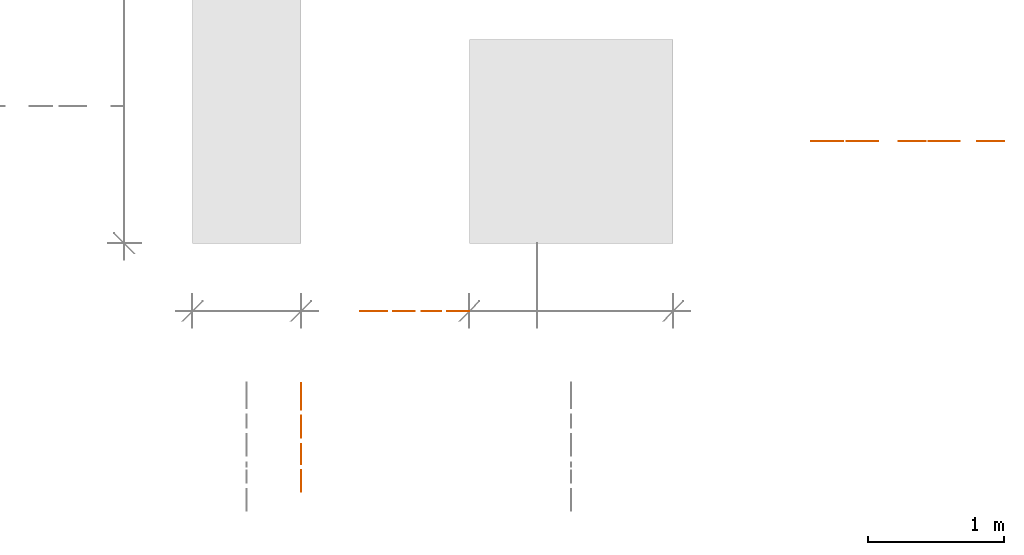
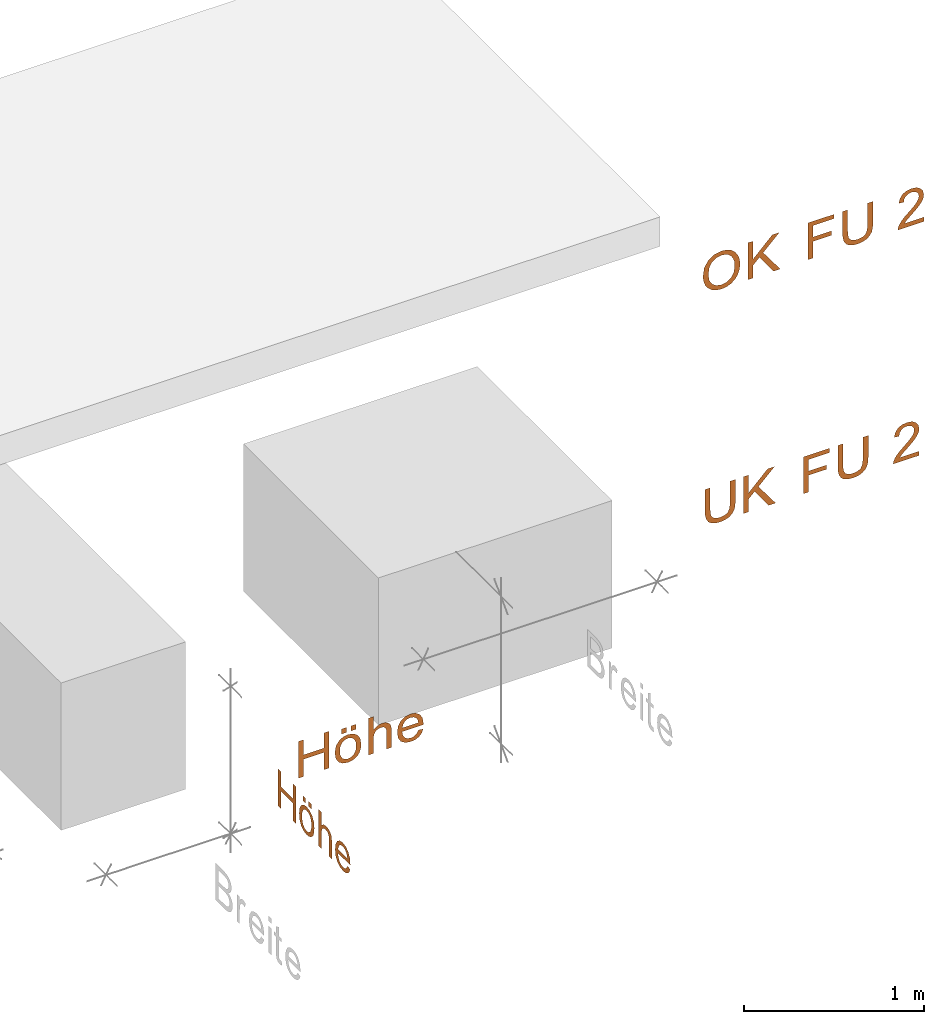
# One storey, part 3 of 3: 4 proxies, 4 elements without a shape of their own.
"""IFC4 building model written with IfcOpenShell, lengths in metres."""

from ifc_helpers import new_model, entity, si_unit, converted_unit, derived_unit, frame, origin, origin_with_axes, place, context, subcontext, project, spatial, open_shell, surface_model, source, transform, mapped, element, aggregate, save


model = new_model("IFC4")

# Units and contexts
model_context = context("Model", 3, precision=1e-05, world=origin())
body_context = subcontext(model_context, "Body", "Model", "MODEL_VIEW")
ifc_project = project(units=[si_unit("LENGTHUNIT", "METRE"), si_unit("AREAUNIT", "SQUARE_METRE"), si_unit("VOLUMEUNIT", "CUBIC_METRE"), si_unit("MASSUNIT", "GRAM", prefix="KILO"), converted_unit("PLANEANGLEUNIT", "DEGREE", entity("IfcPlaneAngleMeasure", 0.0174532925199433), si_unit("PLANEANGLEUNIT", "RADIAN"), dimensions=[0, 0, 0, 0, 0, 0, 0]), derived_unit("THERMALTRANSMITTANCEUNIT", [(si_unit("POWERUNIT", "WATT"), 1), (si_unit("THERMODYNAMICTEMPERATUREUNIT", "KELVIN"), -1), (si_unit("LENGTHUNIT", "METRE"), -2)]), derived_unit("VOLUMETRICFLOWRATEUNIT", [(si_unit("LENGTHUNIT", "METRE"), 3), (converted_unit("TIMEUNIT", "hour", entity("IfcTimeMeasure", 3600.0), si_unit("TIMEUNIT", "SECOND"), dimensions=[0, 0, 1, 0, 0, 0, 0]), -1), (si_unit("LENGTHUNIT", "METRE"), -1)])], contexts=[model_context])

# Site, building, storey
site_placement = place(None, origin())
site = spatial("IfcSite", under=ifc_project, at=site_placement, Name="Liegenschaft", CompositionType="ELEMENT")
building_placement = place(site_placement, origin())
building = spatial("IfcBuilding", under=site, at=building_placement, Name="Gebäude", CompositionType="ELEMENT")
storey_placement = place(building_placement, origin())
storey = spatial("IfcBuildingStorey", under=building, at=storey_placement, Name="Geschoss 01", CompositionType="ELEMENT", Elevation=0.0)

# Assembly, proxy
assembly_1_placement = place(storey_placement, origin())
assembly_1 = element("IfcElementAssembly", 1, at=assembly_1_placement, inside=storey, Name="SpatialDim_Group", PredefinedType="NOTDEFINED")
shared_shape_1 = source(origin_with_axes(), body_context, "Body", "SurfaceModel", [
    surface_model("IfcShellBasedSurfaceModel", [(0.00999999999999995, 0.801, 0.0), (0.00999999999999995, 0.768, 0.0), (0.128, 0.768, 0.0), (0.128, 0.638, 0.0), (0.00999999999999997, 0.638, 0.0), (0.00999999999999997, 0.605, 0.0), (0.26, 0.605, 0.0), (0.26, 0.638, 0.0), (0.157, 0.638, 0.0), (0.157, 0.768, 0.0), (0.26, 0.768, 0.0), (0.26, 0.801, 0.0)], [open_shell([[[0, 1, 2, 3, 4, 5, 6, 7, 8, 9, 10, 11]]], orient=[[False]])]),
    surface_model("IfcShellBasedSurfaceModel", [(0.213, 0.465, 0.0), (0.213, 0.433, 0.0), (0.247, 0.433, 0.0), (0.247, 0.465, 0.0), (0.213, 0.527, 0.0), (0.213, 0.495, 0.0), (0.247, 0.495, 0.0), (0.247, 0.527, 0.0), (0.059875, 0.562125, 0.0), (0.03, 0.545, 0.0), (0.012, 0.517875, 0.0), (0.00599999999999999, 0.484, 0.0), (0.00887499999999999, 0.461, 0.0), (0.017, 0.441, 0.0), (0.030625, 0.422875, 0.0), (0.048, 0.41, 0.0), (0.072125, 0.402375, 0.0), (0.103, 0.4, 0.0), (0.141875, 0.405875, 0.0), (0.171, 0.423, 0.0), (0.189, 0.4505, 0.0), (0.195, 0.484, 0.0), (0.189875, 0.514625, 0.0), (0.175, 0.54, 0.0), (0.144375, 0.561125, 0.0), (0.101, 0.568, 0.0), (0.070375, 0.53325, 0.0), (0.101, 0.537, 0.0), (0.131125, 0.53325, 0.0), (0.153, 0.522, 0.0), (0.166, 0.504875, 0.0), (0.17, 0.484, 0.0), (0.165625, 0.46275, 0.0), (0.153, 0.446, 0.0), (0.13125, 0.43475, 0.0), (0.102, 0.431, 0.0), (0.0705, 0.43475, 0.0), (0.048, 0.446, 0.0), (0.035, 0.463125, 0.0), (0.031, 0.484, 0.0), (0.035375, 0.50525, 0.0), (0.048, 0.522, 0.0)], [open_shell([[[0, 1, 2, 3]], [[4, 5, 6, 7]], [[8, 9, 10, 11, 12, 13, 14, 15, 16, 17, 18, 19, 20, 21, 22, 23, 24, 25], [26, 27, 28, 29, 30, 31, 32, 33, 34, 35, 36, 37, 38, 39, 40, 41]]], orient=[[False], [False], [False, False]])]),
    surface_model("IfcShellBasedSurfaceModel", [(0.01, 0.351, 0.0), (0.01, 0.32, 0.0), (0.109, 0.32, 0.0), (0.128625, 0.318625, 0.0), (0.143, 0.315, 0.0), (0.154, 0.308, 0.0), (0.162, 0.298, 0.0), (0.167375, 0.285875, 0.0), (0.169, 0.273, 0.0), (0.16625, 0.25725, 0.0), (0.159, 0.246, 0.0), (0.144625, 0.238375, 0.0), (0.125, 0.236, 0.0), (0.01, 0.236, 0.0), (0.01, 0.205, 0.0), (0.125, 0.205, 0.0), (0.148375, 0.2065, 0.0), (0.165, 0.211, 0.0), (0.177875, 0.22, 0.0), (0.187, 0.232, 0.0), (0.19325, 0.248375, 0.0), (0.195, 0.267, 0.0), (0.189, 0.2965, 0.0), (0.171, 0.32, 0.0), (0.26, 0.32, 0.0), (0.26, 0.351, 0.0)], [open_shell([[[0, 1, 2, 3, 4, 5, 6, 7, 8, 9, 10, 11, 12, 13, 14, 15, 16, 17, 18, 19, 20, 21, 22, 23, 24, 25]]], orient=[[False]])]),
    surface_model("IfcShellBasedSurfaceModel", [(0.068, 0.0320000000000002, 0.0), (0.051375, 0.0408750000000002, 0.0), (0.04, 0.0520000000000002, 0.0), (0.03325, 0.0653750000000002, 0.0), (0.031, 0.0810000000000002, 0.0), (0.03525, 0.10275, 0.0), (0.047, 0.12, 0.0), (0.066625, 0.131875, 0.0), (0.093, 0.137, 0.0), (0.093, 0.0, 0.0), (0.09775, 0.0, 0.0), (0.101, 0.0, 0.0), (0.14075, 0.00587500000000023, 0.0), (0.17, 0.0230000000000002, 0.0), (0.188875, 0.0500000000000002, 0.0), (0.195, 0.0830000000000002, 0.0), (0.1885, 0.117625, 0.0), (0.17, 0.144, 0.0), (0.139375, 0.162, 0.0), (0.099, 0.168, 0.0), (0.05925, 0.162125, 0.0), (0.03, 0.145, 0.0), (0.012, 0.11675, 0.0), (0.00600000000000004, 0.0810000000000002, 0.0), (0.00975000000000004, 0.0516250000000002, 0.0), (0.021, 0.0290000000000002, 0.0), (0.0395, 0.0116250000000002, 0.0), (0.064, 0.00100000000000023, 0.0), (0.137625, 0.0357500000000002, 0.0), (0.118, 0.0320000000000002, 0.0), (0.118, 0.136, 0.0), (0.139625, 0.130625, 0.0), (0.156, 0.12, 0.0), (0.16675, 0.103, 0.0), (0.17, 0.0830000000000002, 0.0), (0.1655, 0.0612500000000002, 0.0), (0.152, 0.0440000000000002, 0.0)], [open_shell([[[0, 1, 2, 3, 4, 5, 6, 7, 8, 9, 10, 11, 12, 13, 14, 15, 16, 17, 18, 19, 20, 21, 22, 23, 24, 25, 26, 27], [28, 29, 30, 31, 32, 33, 34, 35, 36]]], orient=[[False, False]])]),
])
proxy_1_placement = place(assembly_1_placement, frame((19.5840061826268, -4.61226913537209, 0.5), z_axis=(-1.0, 0.0, 1.22464679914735e-16), x_axis=(1.22464679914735e-16, 0.0, 1.0)))
proxy_1 = element("IfcBuildingElementProxy", 2, at=proxy_1_placement, Name="macro", context=body_context, shape_type="MappedRepresentation", body=[
    mapped(shared_shape_1, transform((0.0, 0.0, 0.0), x_axis=(1.0, 0.0, 0.0), y_axis=(0.0, 1.0, 0.0), z_axis=(0.0, 0.0, 1.0), scale=1.0)),
])
aggregate(assembly_1, [proxy_1])

assembly_2_placement = place(storey_placement, origin())
assembly_2 = element("IfcElementAssembly", 3, at=assembly_2_placement, inside=storey, Name="SpatialDim_Group", PredefinedType="NOTDEFINED")
shared_shape_2 = source(origin_with_axes(), body_context, "Body", "SurfaceModel", [
    surface_model("IfcShellBasedSurfaceModel", [(0.00999999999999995, 1.301, 0.0), (0.00999999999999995, 1.268, 0.0), (0.128, 1.268, 0.0), (0.128, 1.138, 0.0), (0.00999999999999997, 1.138, 0.0), (0.00999999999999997, 1.105, 0.0), (0.26, 1.105, 0.0), (0.26, 1.138, 0.0), (0.157, 1.138, 0.0), (0.157, 1.268, 0.0), (0.26, 1.268, 0.0), (0.26, 1.301, 0.0)], [open_shell([[[0, 1, 2, 3, 4, 5, 6, 7, 8, 9, 10, 11]]], orient=[[False]])]),
    surface_model("IfcShellBasedSurfaceModel", [(0.213, 0.964999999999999, 0.0), (0.213, 0.932999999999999, 0.0), (0.247, 0.932999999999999, 0.0), (0.247, 0.964999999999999, 0.0), (0.213, 1.027, 0.0), (0.213, 0.994999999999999, 0.0), (0.247, 0.994999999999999, 0.0), (0.247, 1.027, 0.0), (0.059875, 1.062125, 0.0), (0.03, 1.045, 0.0), (0.012, 1.017875, 0.0), (0.00599999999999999, 0.983999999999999, 0.0), (0.00887499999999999, 0.960999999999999, 0.0), (0.017, 0.940999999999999, 0.0), (0.030625, 0.922874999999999, 0.0), (0.048, 0.909999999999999, 0.0), (0.072125, 0.902374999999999, 0.0), (0.103, 0.899999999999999, 0.0), (0.141875, 0.905874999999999, 0.0), (0.171, 0.922999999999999, 0.0), (0.189, 0.950499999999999, 0.0), (0.195, 0.983999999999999, 0.0), (0.189875, 1.014625, 0.0), (0.175, 1.04, 0.0), (0.144375, 1.061125, 0.0), (0.101, 1.068, 0.0), (0.070375, 1.03325, 0.0), (0.101, 1.037, 0.0), (0.131125, 1.03325, 0.0), (0.153, 1.022, 0.0), (0.166, 1.004875, 0.0), (0.17, 0.983999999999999, 0.0), (0.165625, 0.962749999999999, 0.0), (0.153, 0.945999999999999, 0.0), (0.13125, 0.934749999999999, 0.0), (0.102, 0.930999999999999, 0.0), (0.0705, 0.934749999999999, 0.0), (0.048, 0.945999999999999, 0.0), (0.035, 0.963124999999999, 0.0), (0.031, 0.983999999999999, 0.0), (0.035375, 1.00525, 0.0), (0.048, 1.022, 0.0)], [open_shell([[[0, 1, 2, 3]], [[4, 5, 6, 7]], [[8, 9, 10, 11, 12, 13, 14, 15, 16, 17, 18, 19, 20, 21, 22, 23, 24, 25], [26, 27, 28, 29, 30, 31, 32, 33, 34, 35, 36, 37, 38, 39, 40, 41]]], orient=[[False], [False], [False, False]])]),
    surface_model("IfcShellBasedSurfaceModel", [(0.01, 0.850999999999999, 0.0), (0.01, 0.819999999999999, 0.0), (0.109, 0.819999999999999, 0.0), (0.128625, 0.818624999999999, 0.0), (0.143, 0.815, 0.0), (0.154, 0.807999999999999, 0.0), (0.162, 0.797999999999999, 0.0), (0.167375, 0.785874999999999, 0.0), (0.169, 0.772999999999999, 0.0), (0.16625, 0.757249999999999, 0.0), (0.159, 0.745999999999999, 0.0), (0.144625, 0.738374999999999, 0.0), (0.125, 0.735999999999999, 0.0), (0.01, 0.735999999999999, 0.0), (0.01, 0.704999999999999, 0.0), (0.125, 0.704999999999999, 0.0), (0.148375, 0.706499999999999, 0.0), (0.165, 0.710999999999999, 0.0), (0.177875, 0.719999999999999, 0.0), (0.187, 0.731999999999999, 0.0), (0.19325, 0.748374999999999, 0.0), (0.195, 0.766999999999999, 0.0), (0.189, 0.796499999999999, 0.0), (0.171, 0.819999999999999, 0.0), (0.26, 0.819999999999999, 0.0), (0.26, 0.850999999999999, 0.0)], [open_shell([[[0, 1, 2, 3, 4, 5, 6, 7, 8, 9, 10, 11, 12, 13, 14, 15, 16, 17, 18, 19, 20, 21, 22, 23, 24, 25]]], orient=[[False]])]),
    surface_model("IfcShellBasedSurfaceModel", [(0.068, 0.531999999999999, 0.0), (0.051375, 0.540874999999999, 0.0), (0.04, 0.551999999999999, 0.0), (0.03325, 0.565374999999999, 0.0), (0.031, 0.580999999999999, 0.0), (0.03525, 0.602749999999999, 0.0), (0.047, 0.619999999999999, 0.0), (0.066625, 0.631874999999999, 0.0), (0.093, 0.636999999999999, 0.0), (0.093, 0.499999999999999, 0.0), (0.09775, 0.499999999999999, 0.0), (0.101, 0.499999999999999, 0.0), (0.14075, 0.505874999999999, 0.0), (0.17, 0.522999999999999, 0.0), (0.188875, 0.549999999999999, 0.0), (0.195, 0.582999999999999, 0.0), (0.1885, 0.617624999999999, 0.0), (0.17, 0.643999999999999, 0.0), (0.139375, 0.661999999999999, 0.0), (0.099, 0.667999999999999, 0.0), (0.05925, 0.662124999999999, 0.0), (0.03, 0.644999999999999, 0.0), (0.012, 0.616749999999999, 0.0), (0.00600000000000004, 0.580999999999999, 0.0), (0.00975000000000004, 0.551624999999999, 0.0), (0.021, 0.528999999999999, 0.0), (0.0395, 0.511624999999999, 0.0), (0.064, 0.500999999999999, 0.0), (0.137625, 0.535749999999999, 0.0), (0.118, 0.531999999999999, 0.0), (0.118, 0.635999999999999, 0.0), (0.139625, 0.630624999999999, 0.0), (0.156, 0.619999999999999, 0.0), (0.16675, 0.602999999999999, 0.0), (0.17, 0.582999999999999, 0.0), (0.1655, 0.561249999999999, 0.0), (0.152, 0.543999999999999, 0.0)], [open_shell([[[0, 1, 2, 3, 4, 5, 6, 7, 8, 9, 10, 11, 12, 13, 14, 15, 16, 17, 18, 19, 20, 21, 22, 23, 24, 25, 26, 27], [28, 29, 30, 31, 32, 33, 34, 35, 36]]], orient=[[False, False]])]),
])
proxy_2_placement = place(assembly_2_placement, frame((21.320715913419, -3.28326913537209, 0.215), z_axis=(-1.22464679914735e-16, -1.0, 1.49975978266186e-32), x_axis=(1.22464679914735e-16, 0.0, 1.0)))
proxy_2 = element("IfcBuildingElementProxy", 4, at=proxy_2_placement, Name="macro", context=body_context, shape_type="MappedRepresentation", body=[
    mapped(shared_shape_2, transform((0.0, 0.0, 0.0), x_axis=(1.0, 0.0, 0.0), y_axis=(0.0, 1.0, 0.0), z_axis=(0.0, 0.0, 1.0), scale=1.0)),
])
aggregate(assembly_2, [proxy_2])

assembly_3_placement = place(storey_placement, origin())
assembly_3 = element("IfcElementAssembly", 5, at=assembly_3_placement, inside=storey, Name="SpatialDim_Group", PredefinedType="NOTDEFINED")
shared_shape_3 = source(origin_with_axes(), body_context, "Body", "SurfaceModel", [
    surface_model("IfcShellBasedSurfaceModel", [(0.26, 1.213, 0.0), (0.117, 1.213, 0.0), (0.0771249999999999, 1.21675, 0.0), (0.0529999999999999, 1.228, 0.0), (0.0408749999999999, 1.24825, 0.0), (0.0369999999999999, 1.279, 0.0), (0.0391249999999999, 1.2985, 0.0), (0.0449999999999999, 1.315, 0.0), (0.0554999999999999, 1.32725, 0.0), (0.0689999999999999, 1.335, 0.0), (0.0884999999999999, 1.3395, 0.0), (0.117, 1.341, 0.0), (0.26, 1.341, 0.0), (0.26, 1.375, 0.0), (0.116, 1.375, 0.0), (0.0799999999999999, 1.37225, 0.0), (0.0529999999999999, 1.365, 0.0), (0.0324999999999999, 1.3525, 0.0), (0.0179999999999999, 1.334, 0.0), (0.00899999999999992, 1.307625, 0.0), (0.00599999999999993, 1.276, 0.0), (0.00962499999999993, 1.24325, 0.0), (0.0199999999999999, 1.218, 0.0), (0.0364999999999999, 1.199125, 0.0), (0.0559999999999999, 1.187, 0.0), (0.0822499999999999, 1.18075, 0.0), (0.116, 1.179, 0.0), (0.26, 1.179, 0.0)], [open_shell([[[0, 1, 2, 3, 4, 5, 6, 7, 8, 9, 10, 11, 12, 13, 14, 15, 16, 17, 18, 19, 20, 21, 22, 23, 24, 25, 26, 27]]], orient=[[False]])]),
    surface_model("IfcShellBasedSurfaceModel", [(0.00999999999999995, 1.128, 0.0), (0.00999999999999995, 1.095, 0.0), (0.0969999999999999, 1.095, 0.0), (0.136, 1.055, 0.0), (0.00999999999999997, 0.965, 0.0), (0.00999999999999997, 0.921, 0.0), (0.159, 1.031, 0.0), (0.26, 0.927, 0.0), (0.26, 0.972, 0.0), (0.138, 1.095, 0.0), (0.26, 1.095, 0.0), (0.26, 1.128, 0.0)], [open_shell([[[0, 1, 2, 3, 4, 5, 6, 7, 8, 9, 10, 11]]], orient=[[False]])]),
    surface_model("IfcShellBasedSurfaceModel", [(0.01, 0.743, 0.0), (0.01, 0.71, 0.0), (0.124, 0.71, 0.0), (0.124, 0.593, 0.0), (0.153, 0.593, 0.0), (0.153, 0.71, 0.0), (0.231, 0.71, 0.0), (0.231, 0.575, 0.0), (0.26, 0.575, 0.0), (0.26, 0.743, 0.0)], [open_shell([[[0, 1, 2, 3, 4, 5, 6, 7, 8, 9]]], orient=[[False]])]),
    surface_model("IfcShellBasedSurfaceModel", [(0.26, 0.36, 0.0), (0.117, 0.36, 0.0), (0.077125, 0.36375, 0.0), (0.053, 0.375, 0.0), (0.040875, 0.39525, 0.0), (0.037, 0.426, 0.0), (0.039125, 0.4455, 0.0), (0.045, 0.462, 0.0), (0.0555, 0.47425, 0.0), (0.069, 0.482, 0.0), (0.0885, 0.4865, 0.0), (0.117, 0.488, 0.0), (0.26, 0.488, 0.0), (0.26, 0.522, 0.0), (0.116, 0.522, 0.0), (0.08, 0.51925, 0.0), (0.053, 0.512, 0.0), (0.0325, 0.4995, 0.0), (0.018, 0.481, 0.0), (0.00900000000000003, 0.454625, 0.0), (0.00600000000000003, 0.423, 0.0), (0.00962500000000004, 0.39025, 0.0), (0.02, 0.365, 0.0), (0.0365, 0.346125, 0.0), (0.056, 0.334, 0.0), (0.08225, 0.32775, 0.0), (0.116, 0.326, 0.0), (0.26, 0.326, 0.0)], [open_shell([[[0, 1, 2, 3, 4, 5, 6, 7, 8, 9, 10, 11, 12, 13, 14, 15, 16, 17, 18, 19, 20, 21, 22, 23, 24, 25, 26, 27]]], orient=[[False]])]),
    surface_model("IfcShellBasedSurfaceModel", [(0.0390000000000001, 0.0, 0.0), (0.0390000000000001, 0.123, 0.0), (0.0475000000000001, 0.116875, 0.0), (0.0560000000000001, 0.11, 0.0), (0.0681250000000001, 0.0965, 0.0), (0.0870000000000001, 0.074, 0.0), (0.112375, 0.045625, 0.0), (0.131, 0.027, 0.0), (0.147625, 0.01425, 0.0), (0.162, 0.006, 0.0), (0.177, 0.0015, 0.0), (0.192, 0.0, 0.0), (0.219125, 0.00525, 0.0), (0.241, 0.021, 0.0), (0.25625, 0.04575, 0.0), (0.261, 0.078, 0.0), (0.2565, 0.11025, 0.0), (0.243, 0.135, 0.0), (0.21975, 0.152375, 0.0), (0.189, 0.16, 0.0), (0.185, 0.129, 0.0), (0.2065, 0.125375, 0.0), (0.222, 0.115, 0.0), (0.23275, 0.09925, 0.0), (0.236, 0.079, 0.0), (0.2325, 0.059625, 0.0), (0.223, 0.044, 0.0), (0.2095, 0.034125, 0.0), (0.193, 0.031, 0.0), (0.174375, 0.03475, 0.0), (0.155, 0.046, 0.0), (0.131875, 0.067625, 0.0), (0.102, 0.102, 0.0), (0.0818750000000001, 0.125375, 0.0), (0.0640000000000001, 0.142, 0.0), (0.0475000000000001, 0.15425, 0.0), (0.0310000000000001, 0.162, 0.0), (0.0205000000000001, 0.165125, 0.0), (0.0100000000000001, 0.166, 0.0), (0.0100000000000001, 0.0, 0.0)], [open_shell([[[0, 1, 2, 3, 4, 5, 6, 7, 8, 9, 10, 11, 12, 13, 14, 15, 16, 17, 18, 19, 20, 21, 22, 23, 24, 25, 26, 27, 28, 29, 30, 31, 32, 33, 34, 35, 36, 37, 38, 39]]], orient=[[False]])]),
])
proxy_3_placement = place(assembly_3_placement, frame((24.723715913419, -2.03326913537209, 0.0), z_axis=(-1.22464679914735e-16, -1.0, 1.49975978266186e-32), x_axis=(1.22464679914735e-16, 0.0, 1.0)))
proxy_3 = element("IfcBuildingElementProxy", 6, at=proxy_3_placement, context=body_context, shape_type="MappedRepresentation", body=[
    mapped(shared_shape_3, transform((0.0, 0.0, 0.0), x_axis=(1.0, 0.0, 0.0), y_axis=(0.0, 1.0, 0.0), z_axis=(0.0, 0.0, 1.0), scale=1.0)),
])
aggregate(assembly_3, [proxy_3])

assembly_4_placement = place(storey_placement, origin())
assembly_4 = element("IfcElementAssembly", 7, at=assembly_4_placement, inside=storey, Name="SpatialDim_Group", PredefinedType="NOTDEFINED")
shared_shape_4 = source(origin_with_axes(), body_context, "Body", "SurfaceModel", [
    surface_model("IfcShellBasedSurfaceModel", [(0.677100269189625, 1.413375, 0.0), (0.646350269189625, 1.403, 0.0), (0.619975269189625, 1.385, 0.0), (0.600350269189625, 1.361, 0.0), (0.587350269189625, 1.331, 0.0), (0.583350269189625, 1.298, 0.0), (0.587100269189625, 1.2665, 0.0), (0.598350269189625, 1.238, 0.0), (0.617975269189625, 1.212625, 0.0), (0.644350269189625, 1.194, 0.0), (0.676475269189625, 1.18275, 0.0), (0.712350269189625, 1.179, 0.0), (0.747600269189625, 1.18275, 0.0), (0.778350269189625, 1.194, 0.0), (0.805225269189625, 1.212, 0.0), (0.825350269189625, 1.236, 0.0), (0.837475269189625, 1.265125, 0.0), (0.841350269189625, 1.298, 0.0), (0.832475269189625, 1.345875, 0.0), (0.806350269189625, 1.384, 0.0), (0.764225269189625, 1.40875, 0.0), (0.709350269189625, 1.417, 0.0), (0.669225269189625, 1.377, 0.0), (0.708350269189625, 1.383, 0.0), (0.756600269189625, 1.3765, 0.0), (0.788350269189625, 1.358, 0.0), (0.806350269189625, 1.33025, 0.0), (0.812350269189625, 1.298, 0.0), (0.809350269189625, 1.274, 0.0), (0.800350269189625, 1.253, 0.0), (0.784725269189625, 1.23575, 0.0), (0.765350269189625, 1.223, 0.0), (0.740350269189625, 1.215375, 0.0), (0.712350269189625, 1.213, 0.0), (0.669725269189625, 1.219, 0.0), (0.638350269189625, 1.237, 0.0), (0.618600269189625, 1.2645, 0.0), (0.612350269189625, 1.298, 0.0), (0.618975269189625, 1.331875, 0.0), (0.638350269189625, 1.359, 0.0)], [open_shell([[[0, 1, 2, 3, 4, 5, 6, 7, 8, 9, 10, 11, 12, 13, 14, 15, 16, 17, 18, 19, 20, 21], [22, 23, 24, 25, 26, 27, 28, 29, 30, 31, 32, 33, 34, 35, 36, 37, 38, 39]]], orient=[[False, False]])]),
    surface_model("IfcShellBasedSurfaceModel", [(0.587350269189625, 1.128, 0.0), (0.587350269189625, 1.095, 0.0), (0.674350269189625, 1.095, 0.0), (0.713350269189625, 1.055, 0.0), (0.587350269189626, 0.965, 0.0), (0.587350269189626, 0.921, 0.0), (0.736350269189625, 1.031, 0.0), (0.837350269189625, 0.927, 0.0), (0.837350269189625, 0.972, 0.0), (0.715350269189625, 1.095, 0.0), (0.837350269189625, 1.095, 0.0), (0.837350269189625, 1.128, 0.0)], [open_shell([[[0, 1, 2, 3, 4, 5, 6, 7, 8, 9, 10, 11]]], orient=[[False]])]),
    surface_model("IfcShellBasedSurfaceModel", [(0.587350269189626, 0.743, 0.0), (0.587350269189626, 0.71, 0.0), (0.701350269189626, 0.71, 0.0), (0.701350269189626, 0.593, 0.0), (0.730350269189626, 0.593, 0.0), (0.730350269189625, 0.71, 0.0), (0.808350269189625, 0.71, 0.0), (0.808350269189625, 0.575, 0.0), (0.837350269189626, 0.575, 0.0), (0.837350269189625, 0.743, 0.0)], [open_shell([[[0, 1, 2, 3, 4, 5, 6, 7, 8, 9]]], orient=[[False]])]),
    surface_model("IfcShellBasedSurfaceModel", [(0.837350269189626, 0.36, 0.0), (0.694350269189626, 0.36, 0.0), (0.654475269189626, 0.36375, 0.0), (0.630350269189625, 0.375, 0.0), (0.618225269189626, 0.39525, 0.0), (0.614350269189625, 0.426, 0.0), (0.616475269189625, 0.4455, 0.0), (0.622350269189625, 0.462, 0.0), (0.632850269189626, 0.47425, 0.0), (0.646350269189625, 0.482, 0.0), (0.665850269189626, 0.4865, 0.0), (0.694350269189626, 0.488, 0.0), (0.837350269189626, 0.488, 0.0), (0.837350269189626, 0.522, 0.0), (0.693350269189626, 0.522, 0.0), (0.657350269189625, 0.51925, 0.0), (0.630350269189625, 0.512, 0.0), (0.609850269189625, 0.4995, 0.0), (0.595350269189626, 0.481, 0.0), (0.586350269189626, 0.454625, 0.0), (0.583350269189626, 0.423, 0.0), (0.586975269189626, 0.39025, 0.0), (0.597350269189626, 0.365, 0.0), (0.613850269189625, 0.346125, 0.0), (0.633350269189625, 0.334, 0.0), (0.659600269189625, 0.32775, 0.0), (0.693350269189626, 0.326, 0.0), (0.837350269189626, 0.326, 0.0)], [open_shell([[[0, 1, 2, 3, 4, 5, 6, 7, 8, 9, 10, 11, 12, 13, 14, 15, 16, 17, 18, 19, 20, 21, 22, 23, 24, 25, 26, 27]]], orient=[[False]])]),
    surface_model("IfcShellBasedSurfaceModel", [(0.616350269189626, 0.0, 0.0), (0.616350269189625, 0.123, 0.0), (0.624850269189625, 0.116875, 0.0), (0.633350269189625, 0.11, 0.0), (0.645475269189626, 0.0965, 0.0), (0.664350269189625, 0.074, 0.0), (0.689725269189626, 0.045625, 0.0), (0.708350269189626, 0.027, 0.0), (0.724975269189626, 0.01425, 0.0), (0.739350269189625, 0.006, 0.0), (0.754350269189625, 0.0015, 0.0), (0.769350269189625, 0.0, 0.0), (0.796475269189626, 0.00525, 0.0), (0.818350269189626, 0.021, 0.0), (0.833600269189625, 0.04575, 0.0), (0.838350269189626, 0.078, 0.0), (0.833850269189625, 0.11025, 0.0), (0.820350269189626, 0.135, 0.0), (0.797100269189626, 0.152375, 0.0), (0.766350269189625, 0.16, 0.0), (0.762350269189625, 0.129, 0.0), (0.783850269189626, 0.125375, 0.0), (0.799350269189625, 0.115, 0.0), (0.810100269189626, 0.09925, 0.0), (0.813350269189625, 0.079, 0.0), (0.809850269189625, 0.059625, 0.0), (0.800350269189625, 0.044, 0.0), (0.786850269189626, 0.034125, 0.0), (0.770350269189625, 0.031, 0.0), (0.751725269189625, 0.03475, 0.0), (0.732350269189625, 0.046, 0.0), (0.709225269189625, 0.067625, 0.0), (0.679350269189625, 0.102, 0.0), (0.659225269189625, 0.125375, 0.0), (0.641350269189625, 0.142, 0.0), (0.624850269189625, 0.15425, 0.0), (0.608350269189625, 0.162, 0.0), (0.597850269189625, 0.165125, 0.0), (0.587350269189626, 0.166, 0.0), (0.587350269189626, 0.0, 0.0)], [open_shell([[[0, 1, 2, 3, 4, 5, 6, 7, 8, 9, 10, 11, 12, 13, 14, 15, 16, 17, 18, 19, 20, 21, 22, 23, 24, 25, 26, 27, 28, 29, 30, 31, 32, 33, 34, 35, 36, 37, 38, 39]]], orient=[[False]])]),
])
proxy_4_placement = place(assembly_4_placement, frame((24.753715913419, -2.03326913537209, 1.0), z_axis=(-1.22464679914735e-16, -1.0, 1.49975978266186e-32), x_axis=(1.22464679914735e-16, 0.0, 1.0)))
proxy_4 = element("IfcBuildingElementProxy", 8, at=proxy_4_placement, context=body_context, shape_type="MappedRepresentation", body=[
    mapped(shared_shape_4, transform((0.0, 0.0, 0.0), x_axis=(1.0, 0.0, 0.0), y_axis=(0.0, 1.0, 0.0), z_axis=(0.0, 0.0, 1.0), scale=1.0)),
])
aggregate(assembly_4, [proxy_4])

save(model, "model.ifc")
